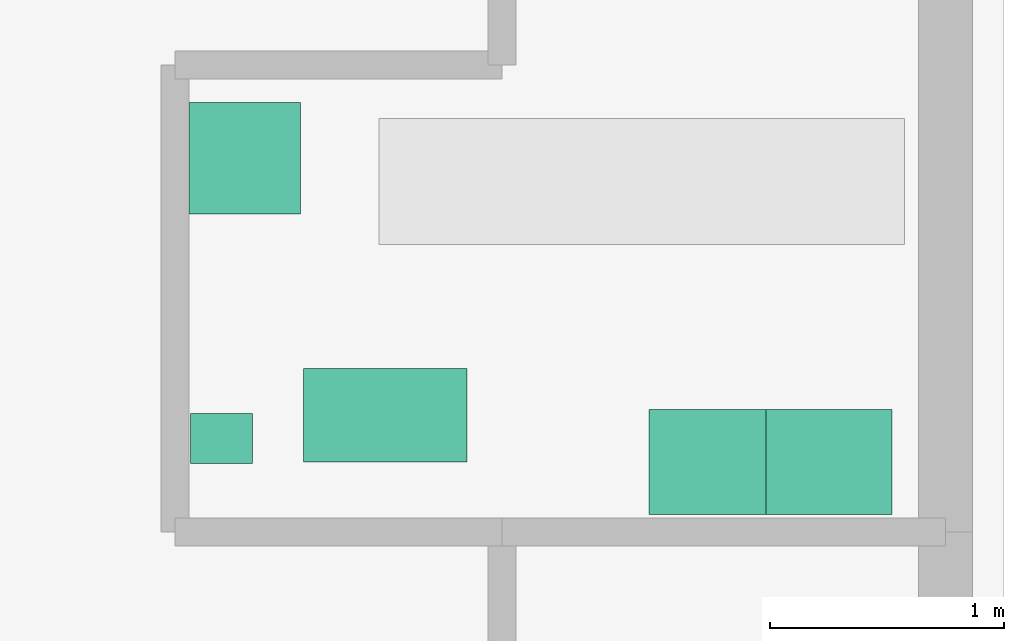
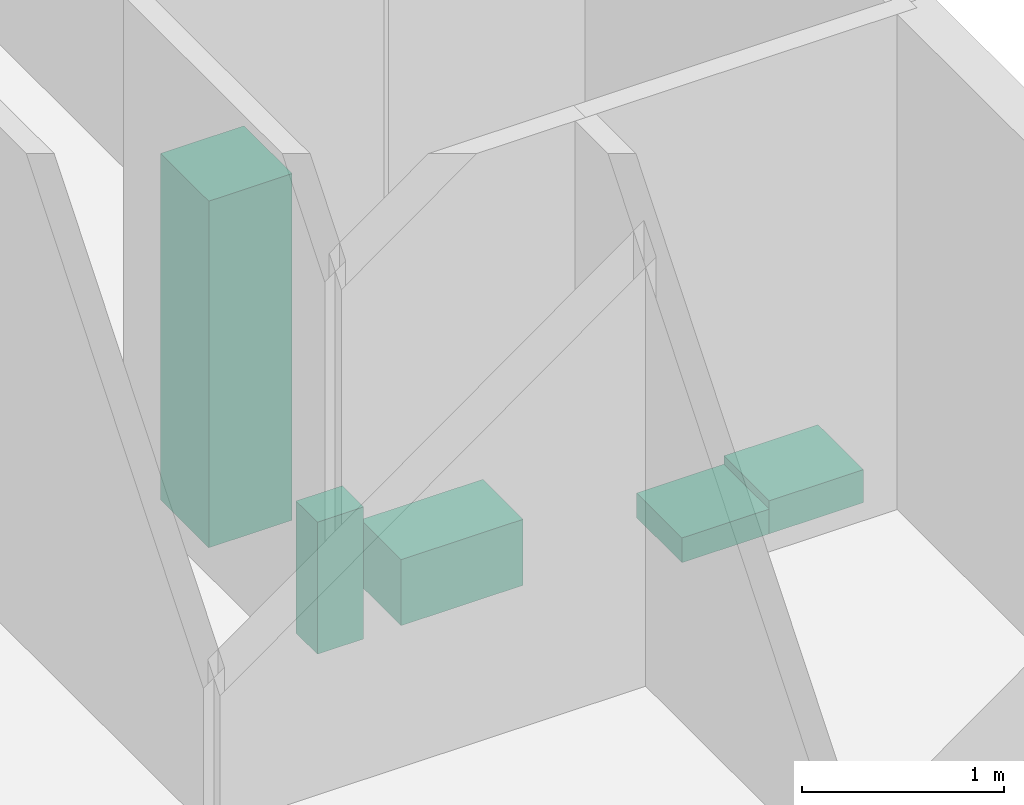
# One storey, part 2 of 3: 4 sanitary terminals, 1 electric appliance.
"""IFC4 building model written with IfcOpenShell, lengths in metres."""

from ifc_helpers import new_model, si_unit, frame, origin, place, context, project, spatial, polyline, outline, extrude, material, element, save


model = new_model("IFC4")

# Units and contexts
model_context = context("Model", 3, precision=1e-05, world=origin())
ifc_project = project(units=[si_unit("LENGTHUNIT", "METRE")], contexts=[model_context])

# Site, building, storey
site_placement = place(None, origin())
site = spatial("IfcSite", under=ifc_project, at=site_placement, Name="Site")
building_placement = place(site_placement, origin())
building = spatial("IfcBuilding", under=site, at=building_placement, Name="Structure")
storey_placement = place(building_placement, origin())
storey = spatial("IfcBuildingStorey", under=building, at=storey_placement, Name="Ground Floor")

# Sanitary terminals
ifc_material_1 = material(Name="Ceramic")
sanitary_terminal_1_placement = place(storey_placement, frame((7.4, 3.5, 0.0)))
element("IfcSanitaryTerminal", 1, at=sanitary_terminal_1_placement, inside=storey, material=ifc_material_1, Name="wc_01", PredefinedType="TOILETPAN", context=model_context, shape_type="SweptSolid", body=[
    extrude(outline(polyline([(-0.35, -0.2), (0.35, -0.2), (0.35, 0.2), (-0.35, 0.2), (-0.35, -0.2)])), origin(), (0.0, 0.0, 1.0), 0.4),
])
ifc_material_2 = material(Name="Ceramic")
sanitary_terminal_2_placement = place(storey_placement, frame((6.7, 3.4, 0.0)))
element("IfcSanitaryTerminal", 2, at=sanitary_terminal_2_placement, inside=storey, material=ifc_material_2, Name="basin_01", PredefinedType="WASHHANDBASIN", context=model_context, shape_type="SweptSolid", body=[
    extrude(outline(polyline([(-0.13286025, -0.1062882), (0.13286025, -0.1062882), (0.13286025, 0.1062882), (-0.13286025, 0.1062882), (-0.13286025, -0.1062882)])), origin(), (0.0, 0.0, 1.0), 0.8),
])
ifc_material_3 = material(Name="Chrome")
sanitary_terminal_3_placement = place(storey_placement, frame((6.8, 4.6, 0.0)))
element("IfcSanitaryTerminal", 3, at=sanitary_terminal_3_placement, inside=storey, material=ifc_material_3, Name="shower_01", PredefinedType="SHOWER", context=model_context, shape_type="SweptSolid", body=[
    extrude(outline(polyline([(-0.23914845, -0.23914845), (0.23914845, -0.23914845), (0.23914845, 0.23914845), (-0.23914845, 0.23914845), (-0.23914845, -0.23914845)])), origin(), (0.0, 0.0, 1.0), 2.1),
])
ifc_material_4 = material(Name="Stainless Steel")
sanitary_terminal_4_placement = place(storey_placement, frame((9.3, 3.3, 0.0)))
element("IfcSanitaryTerminal", 4, at=sanitary_terminal_4_placement, inside=storey, material=ifc_material_4, Name="sink_01", PredefinedType="SINK", context=model_context, shape_type="SweptSolid", body=[
    extrude(outline(polyline([(-0.27, -0.225), (0.27, -0.225), (0.27, 0.225), (-0.27, 0.225), (-0.27, -0.225)])), origin(), (0.0, 0.0, 1.0), 0.2),
])

# Electric appliance
ifc_material_5 = material(Name="Glass/Steel")
electric_appliance_placement = place(storey_placement, frame((8.8, 3.3, 0.0)))
element("IfcElectricAppliance", 5, at=electric_appliance_placement, inside=storey, material=ifc_material_5, Name="stove_01", PredefinedType="ELECTRICCOOKER", context=model_context, shape_type="SweptSolid", body=[
    extrude(outline(polyline([(-0.27, -0.225), (0.27, -0.225), (0.27, 0.225), (-0.27, 0.225), (-0.27, -0.225)])), origin(), (0.0, 0.0, 1.0), 0.15),
])

save(model, "model.ifc")
